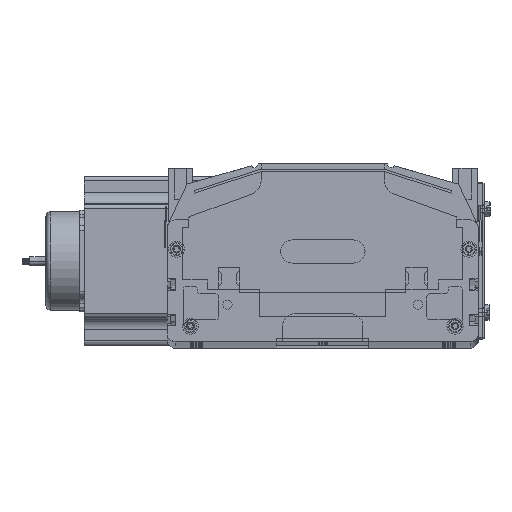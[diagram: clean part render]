
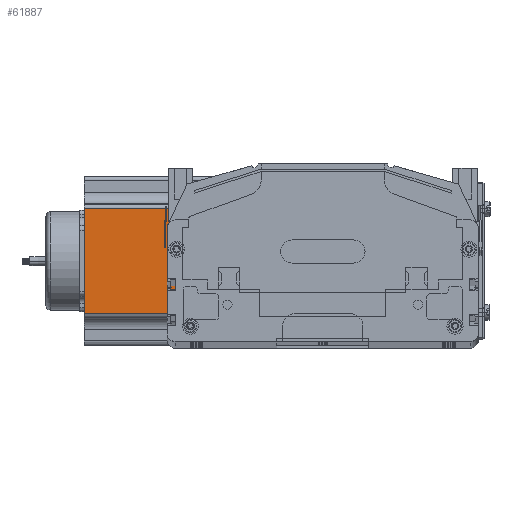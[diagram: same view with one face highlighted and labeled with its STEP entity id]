
A CAD part, top view. The second image highlights one B-rep face of the part: STEP entity #61887.
In plain terms, the highlighted planar face has unit normal (0, 0, 1) as drawn and (0, -1, 0) by its records, which use the part's own axes.
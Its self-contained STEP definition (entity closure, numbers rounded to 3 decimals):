
#34680 = DIRECTION ( 'NONE',  ( 1., 0., 0. ) ) ;
#34681 = VECTOR ( 'NONE', #34680, 1000. ) ;
#34682 = CARTESIAN_POINT ( 'NONE',  ( 0., 0., 0. ) ) ;
#34685 = LINE ( 'NONE', #34682, #34681 ) ;
#35018 = CARTESIAN_POINT ( 'NONE',  ( 88.952, 0., 0. ) ) ;
#35103 = DIRECTION ( 'NONE',  ( 0., 0., 1. ) ) ;
#35110 = CARTESIAN_POINT ( 'NONE',  ( 21.048, 0., 160.5 ) ) ;
#35178 = CARTESIAN_POINT ( 'NONE',  ( 88.952, 0., 160.5 ) ) ;
#35188 = VECTOR ( 'NONE', #35103, 1000. ) ;
#35190 = CARTESIAN_POINT ( 'NONE',  ( 88.952, 0., 160.5 ) ) ;
#35275 = LINE ( 'NONE', #35190, #35188 ) ;
#35281 = DIRECTION ( 'NONE',  ( 1., 0., 0. ) ) ;
#35282 = VECTOR ( 'NONE', #35281, 1000. ) ;
#35283 = CARTESIAN_POINT ( 'NONE',  ( 0., 0., 160.5 ) ) ;
#35284 = LINE ( 'NONE', #35283, #35282 ) ;
#35320 = DIRECTION ( 'NONE',  ( 0., 0., -1. ) ) ;
#35321 = VECTOR ( 'NONE', #35320, 1000. ) ;
#35322 = CARTESIAN_POINT ( 'NONE',  ( 21.048, 0., 160.5 ) ) ;
#35323 = LINE ( 'NONE', #35322, #35321 ) ;
#35501 = DIRECTION ( 'NONE',  ( 0., 0., 1. ) ) ;
#35503 = FACE_OUTER_BOUND ( 'NONE', #61876, .T. ) ;
#35554 = DIRECTION ( 'NONE',  ( 0., 1., 0. ) ) ;
#35555 = PLANE ( 'NONE',  #35656 ) ;
#35582 = CARTESIAN_POINT ( 'NONE',  ( 21.048, 0., 0. ) ) ;
#35655 = CARTESIAN_POINT ( 'NONE',  ( 0., 0., 160.5 ) ) ;
#35656 = AXIS2_PLACEMENT_3D ( 'NONE', #35655, #35554, #35501 ) ;
#61061 = EDGE_CURVE ( 'NONE', #61882, #61446, #34685, .T. ) ;
#61063 = ORIENTED_EDGE ( 'NONE', *, *, #61597, .T. ) ;
#61074 = ORIENTED_EDGE ( 'NONE', *, *, #61061, .T. ) ;
#61446 = VERTEX_POINT ( 'NONE', #35018 ) ;
#61558 = VERTEX_POINT ( 'NONE', #35110 ) ;
#61561 = EDGE_CURVE ( 'NONE', #61558, #61607, #35284, .T. ) ;
#61563 = ORIENTED_EDGE ( 'NONE', *, *, #61688, .T. ) ;
#61597 = EDGE_CURVE ( 'NONE', #61446, #61607, #35275, .T. ) ;
#61607 = VERTEX_POINT ( 'NONE', #35178 ) ;
#61672 = ORIENTED_EDGE ( 'NONE', *, *, #61561, .F. ) ;
#61688 = EDGE_CURVE ( 'NONE', #61558, #61882, #35323, .T. ) ;
#61876 = EDGE_LOOP ( 'NONE', ( #61074, #61063, #61672, #61563 ) ) ;
#61882 = VERTEX_POINT ( 'NONE', #35582 ) ;
#61887 = ADVANCED_FACE ( 'NONE', ( #35503 ), #35555, .F. ) ;
